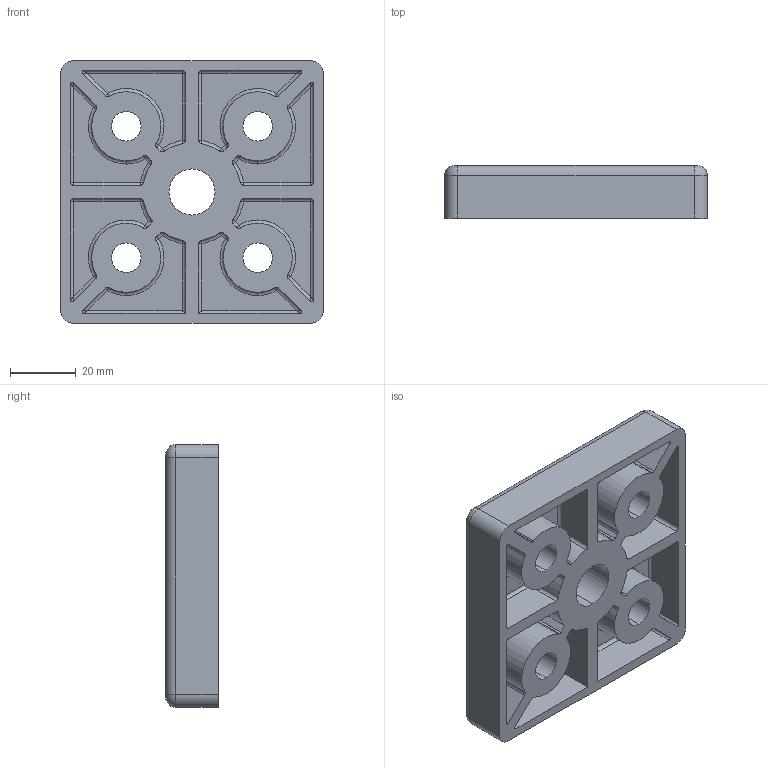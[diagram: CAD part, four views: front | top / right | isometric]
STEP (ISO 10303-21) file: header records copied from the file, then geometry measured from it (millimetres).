
FILE_DESCRIPTION (( 'STEP AP203' ), '1' );
FILE_NAME ('10149_FUS8080M16.STEP', '2018-05-24T10:47:40', ( '' ), ( '' ), 'SwSTEP 2.0', 'SolidWorks 2017', '' );
FILE_SCHEMA (( 'CONFIG_CONTROL_DESIGN' ));
Length unit declared in the file: millimetre
Products named in the file (1): 10149_FUS8080M16
Bounding box: 80 x 16 x 80 mm (x, y, z)
Volume: 57784.6 mm3; surface area: 29203.5 mm2
Topology: 1 solids, 1 shells, 260 faces, 635 edges, 346 vertices
Faces by surface type: cylinder 131, plane 50, sphere 35, torus 32, bspline 10, cone 2
Entity records: 8195 total; most frequent: CARTESIAN_POINT 2222, DIRECTION 1351, ORIENTED_EDGE 1168, EDGE_CURVE 584, AXIS2_PLACEMENT_3D 555, VERTEX_POINT 338, CIRCLE 304, EDGE_LOOP 282
